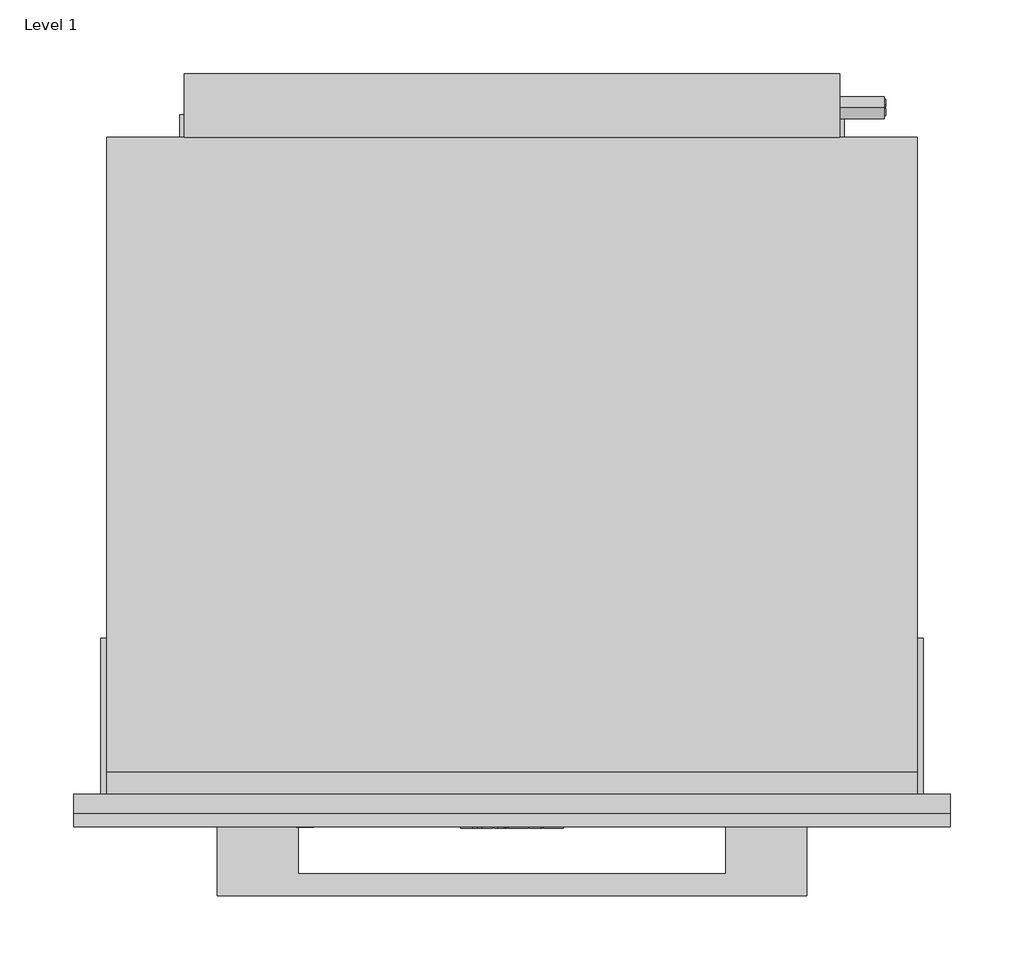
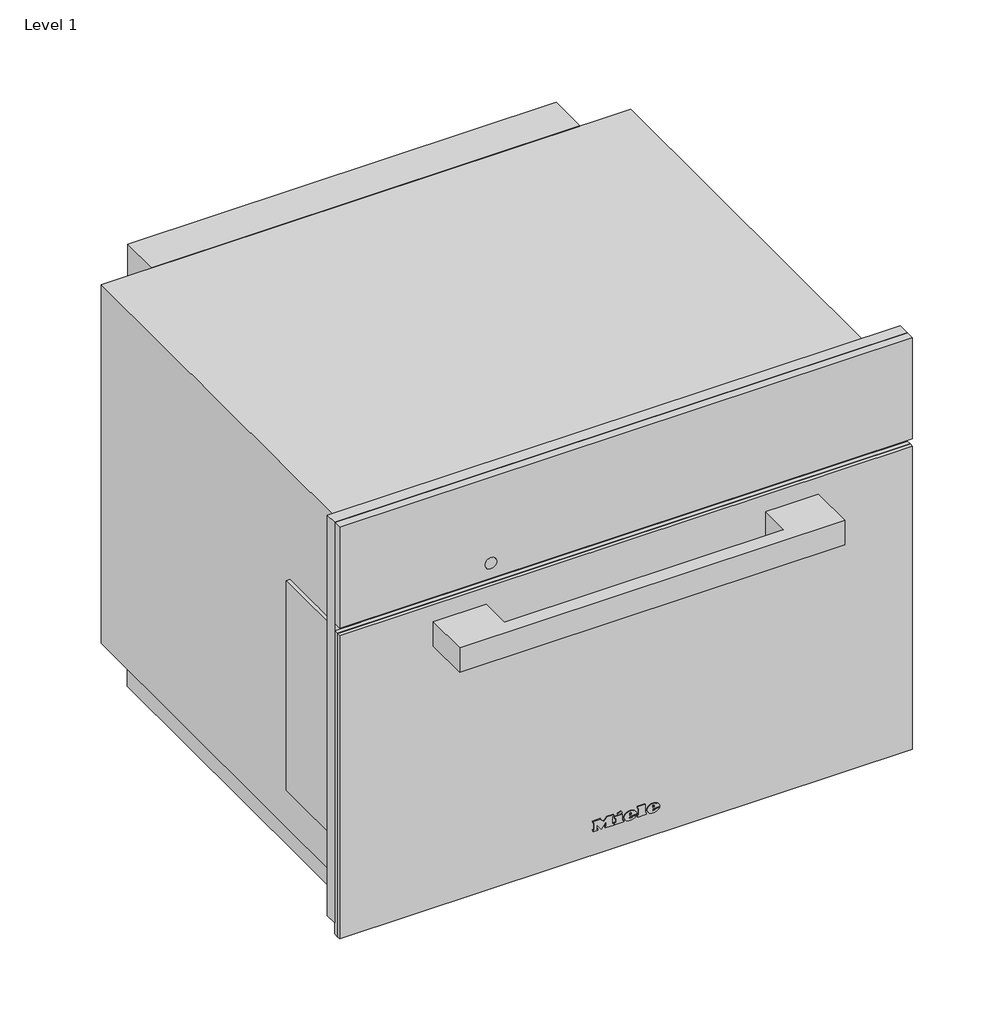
# One storey: 1 proxy.
"""IFC4 building model written with IfcOpenShell, lengths in millimetres."""

import ifcopenshell
import ifcopenshell.guid

model = None  # the IFC model being written
_history = None  # IfcOwnerHistory: only IFC2X3 demands one
_inside = {}  # id of a spatial element -> (the spatial element, [elements in it])
_under = {}  # id of a project, library or spatial element -> (it, [spatial elements below it])
_declared = {}  # id of a project -> (the project, [libraries it declares])
_typed = {}  # id of a type object -> (the type object, [elements of that type])
_made_of = {}  # id of a material, layer set ... -> (it, [elements and type objects made of it])


def new_model(schema):
    """Start an empty IFC model of exactly this schema.

    Asked for "IFC4X3", IfcOpenShell would pick the latest addendum, in which some entities
    have other attributes; the version numbers below select the first issue.
    IFC2X3 requires an IfcOwnerHistory on every rooted entity: one is made here for all.
    """
    global model, _history
    if schema == "IFC4X3":
        model = ifcopenshell.file(schema_version=(4, 3, 0, 0))
    else:
        model = ifcopenshell.file(schema=schema)
    _inside.clear()
    _under.clear()
    _declared.clear()
    _typed.clear()
    _made_of.clear()
    _history = None
    if model.schema == "IFC2X3":
        org = make("IfcOrganization", Name="unknown")
        user = make(
            "IfcPersonAndOrganization",
            ThePerson=make("IfcPerson", FamilyName="unknown"),
            TheOrganization=org,
        )
        app = make(
            "IfcApplication",
            ApplicationDeveloper=org,
            Version="unknown",
            ApplicationFullName="unknown",
            ApplicationIdentifier="unknown",
        )
        _history = make(
            "IfcOwnerHistory",
            OwningUser=user,
            OwningApplication=app,
            ChangeAction="ADDED",
            CreationDate=0,
        )
    return model


def make(cls, **values):
    """One entity of the class cls with the attributes given. An attribute that is None is left unset."""
    return model.create_entity(
        cls, **{name: value for name, value in values.items() if value is not None}
    )


def rooted(cls, **values):
    """An entity with a GlobalId (a new one), such as an element, a storey or a relation."""
    return make(cls, GlobalId=ifcopenshell.guid.new(), OwnerHistory=_history, **values)


def si_unit(unit_type, name, prefix=None):
    """IfcSIUnit, for example si_unit("LENGTHUNIT", "METRE", prefix="MILLI")."""
    return make("IfcSIUnit", UnitType=unit_type, Prefix=prefix, Name=name)


def assignment(units):
    """IfcUnitAssignment: the units of a project."""
    return None if units is None else make("IfcUnitAssignment", Units=units)


def point(xyz):
    """IfcCartesianPoint."""
    return None if xyz is None else make("IfcCartesianPoint", Coordinates=xyz)


def direction(xyz):
    """IfcDirection."""
    return None if xyz is None else make("IfcDirection", DirectionRatios=xyz)


def frame(location, z_axis=None, x_axis=None):
    """IfcAxis2Placement3D, a coordinate frame: its origin and axes. An axis left out is left unset."""
    return make(
        "IfcAxis2Placement3D",
        Location=point(location),
        Axis=direction(z_axis),
        RefDirection=direction(x_axis),
    )


def frame_2d(location, x_axis=None):
    """IfcAxis2Placement2D, a coordinate frame in the plane: its origin and x axis."""
    return make(
        "IfcAxis2Placement2D", Location=point(location), RefDirection=direction(x_axis)
    )


def origin():
    """The frame at (0, 0, 0) with its axes left unset."""
    return frame((0.0, 0.0, 0.0))


def origin_with_axes():
    """The frame at (0, 0, 0) with the z axis (0, 0, 1) and the x axis (1, 0, 0) written out."""
    return frame((0.0, 0.0, 0.0), z_axis=(0.0, 0.0, 1.0), x_axis=(1.0, 0.0, 0.0))


def place(relative_to, where):
    """IfcLocalPlacement: puts the frame where relative to a parent placement (None: the world)."""
    return make(
        "IfcLocalPlacement", PlacementRelTo=relative_to, RelativePlacement=where
    )


def context(
    kind, dimensions, precision=None, world=None, true_north=None, identifier=None
):
    """IfcGeometricRepresentationContext, for example the 3D "Model" context."""
    return make(
        "IfcGeometricRepresentationContext",
        ContextIdentifier=identifier,
        ContextType=kind,
        CoordinateSpaceDimension=dimensions,
        Precision=precision,
        WorldCoordinateSystem=world,
        TrueNorth=true_north,
    )


def project(units=None, contexts=None):
    """IfcProject with its units and contexts."""
    return rooted(
        "IfcProject",
        Name="project",
        RepresentationContexts=contexts,
        UnitsInContext=assignment(units),
    )


def spatial(cls, under=None, at=None, **own):
    """A site, building, storey or space (cls), placed at a placement, below another one or the project."""
    s = rooted(cls, ObjectPlacement=at, **own)
    if under is not None:
        _under.setdefault(under.id(), (under, []))[1].append(s)
    return s


def polyline(points):
    """IfcPolyline through the points."""
    return make("IfcPolyline", Points=[point(p) for p in points])


def circle_curve(where, radius):
    """IfcCircle in the frame where."""
    return make("IfcCircle", Position=where, Radius=radius)


def ellipse_curve(where, semi_axis1, semi_axis2):
    """IfcEllipse in the frame where."""
    return make(
        "IfcEllipse", Position=where, SemiAxis1=semi_axis1, SemiAxis2=semi_axis2
    )


def trimmed(basis, trim1, trim2, sense, master):
    """IfcTrimmedCurve: the piece of a basis curve between two trims."""
    return make(
        "IfcTrimmedCurve",
        BasisCurve=basis,
        Trim1=trim1,
        Trim2=trim2,
        SenseAgreement=sense,
        MasterRepresentation=master,
    )


def segment(curve, same_sense, transition):
    """IfcCompositeCurveSegment."""
    return make(
        "IfcCompositeCurveSegment",
        Transition=transition,
        SameSense=same_sense,
        ParentCurve=curve,
    )


def composite_curve(segments, self_intersect=None):
    """IfcCompositeCurve: segments joined end to end."""
    return make("IfcCompositeCurve", Segments=segments, SelfIntersect=self_intersect)


def outline(outer, holes=None, kind="AREA"):
    """IfcArbitraryClosedProfileDef: a profile drawn as a closed curve; with holes, ...WithVoids."""
    if holes is None:
        return make("IfcArbitraryClosedProfileDef", ProfileType=kind, OuterCurve=outer)
    return make(
        "IfcArbitraryProfileDefWithVoids",
        ProfileType=kind,
        OuterCurve=outer,
        InnerCurves=holes,
    )


def extrude(swept, where, along, depth):
    """IfcExtrudedAreaSolid: the profile swept, set in the frame where, extruded along a direction by depth."""
    return make(
        "IfcExtrudedAreaSolid",
        SweptArea=swept,
        Position=where,
        ExtrudedDirection=direction(along),
        Depth=depth,
    )


def faces_of(points, faces, orient=None, outer=None):
    """IfcFace entities. A face is a list of loops; a loop is a list of indices into points, from 0.

    orient and outer hold one flag for each loop. By default every Orientation is true, the
    first loop of a face is its IfcFaceOuterBound and the others are IfcFaceBound.
    """
    made = []
    for i, loops in enumerate(faces):
        bounds = []
        for j, loop in enumerate(loops):
            is_outer = j == 0 if outer is None else outer[i][j]
            bounds.append(
                make(
                    "IfcFaceOuterBound" if is_outer else "IfcFaceBound",
                    Bound=make("IfcPolyLoop", Polygon=[points[k] for k in loop]),
                    Orientation=True if orient is None else orient[i][j],
                )
            )
        made.append(make("IfcFace", Bounds=bounds))
    return made


def faceted_brep(points, faces, orient=None, outer=None, voids=None):
    """IfcFacetedBrep: a solid bounded by flat faces; with voids (closed shells), ...WithVoids."""
    shared = [point(p) for p in points]
    hull = make("IfcClosedShell", CfsFaces=faces_of(shared, faces, orient, outer))
    if voids is None:
        return make("IfcFacetedBrep", Outer=hull)
    return make(
        "IfcFacetedBrepWithVoids",
        Outer=hull,
        Voids=[
            make(cls, CfsFaces=faces_of(shared, fs, o, b)) for cls, fs, o, b in voids
        ],
    )


def shape(context_of_items, identifier, shape_type, items):
    """IfcShapeRepresentation: the items that make up one representation, for example the "Body"."""
    return make(
        "IfcShapeRepresentation",
        ContextOfItems=context_of_items,
        RepresentationIdentifier=identifier,
        RepresentationType=shape_type,
        Items=items,
    )


def source(mapping_origin, context_of_items, identifier, shape_type, items):
    """IfcRepresentationMap: a shape defined once, which mapped items show again and again."""
    return make(
        "IfcRepresentationMap",
        MappingOrigin=mapping_origin,
        MappedRepresentation=shape(context_of_items, identifier, shape_type, items),
    )


def transform(
    local_origin,
    x_axis=None,
    y_axis=None,
    z_axis=None,
    scale=None,
    scale2=None,
    scale3=None,
    uniform=True,
):
    """IfcCartesianTransformationOperator3D, or its non-uniform kind. x_axis, y_axis, z_axis: its Axis1, 2, 3."""
    if uniform:
        return make(
            "IfcCartesianTransformationOperator3D",
            Axis1=direction(x_axis),
            Axis2=direction(y_axis),
            LocalOrigin=point(local_origin),
            Scale=scale,
            Axis3=direction(z_axis),
        )
    return make(
        "IfcCartesianTransformationOperator3DnonUniform",
        Axis1=direction(x_axis),
        Axis2=direction(y_axis),
        LocalOrigin=point(local_origin),
        Scale=scale,
        Axis3=direction(z_axis),
        Scale2=scale2,
        Scale3=scale3,
    )


def mapped(mapping_source, mapping_target):
    """IfcMappedItem: shows the shape of a source again, moved by a transform."""
    return make(
        "IfcMappedItem", MappingSource=mapping_source, MappingTarget=mapping_target
    )


def made_of(thing, what):
    """Note that an element or type object is made of a material, layer set ...; save() writes the relation."""
    if what is not None:
        _made_of.setdefault(what.id(), (what, []))[1].append(thing)
    return thing


def element(
    cls,
    number,
    at=None,
    inside=None,
    cuts=None,
    type_object=None,
    material=None,
    context=None,
    identifier="Body",
    shape_type=None,
    held_by="IfcProductDefinitionShape",
    body=None,
    shapes=None,
    **own,
):
    """One element of the class cls, such as IfcWall. Its Tag is "e" and its number.

    at: its placement. inside: the storey or other place that contains it. cuts: it is an
    opening in that element (IfcRelVoidsElement). A single representation is given by context,
    identifier, shape_type and body (its items); several are given by shapes. held_by: the class
    of the entity that holds the representations. save() writes the other relations.
    """
    e = rooted(cls, Tag="e%d" % number, ObjectPlacement=at, **own)
    if body is not None:
        shapes = [shape(context, identifier, shape_type, body)]
    if shapes is not None:
        e.Representation = make(held_by, Representations=shapes)
    if inside is not None:
        _inside.setdefault(inside.id(), (inside, []))[1].append(e)
    if cuts is not None:
        rooted(
            "IfcRelVoidsElement", RelatingBuildingElement=cuts, RelatedOpeningElement=e
        )
    if type_object is not None:
        _typed.setdefault(type_object.id(), (type_object, []))[1].append(e)
    return made_of(e, material)


def aggregate(whole, parts):
    """IfcRelAggregates: a whole, such as a stair, and the parts it consists of."""
    return rooted("IfcRelAggregates", RelatingObject=whole, RelatedObjects=parts)


def save(model, path):
    """Write the relations noted so far, then the file.

    IfcRelAggregates (storeys below a building ...), IfcRelContainedInSpatialStructure (elements
    in a storey), IfcRelDefinesByType, IfcRelAssociatesMaterial and IfcRelDeclares: one each for
    every whole, place, type object, material and project.
    """
    for whole, parts in _under.values():
        aggregate(whole, parts)
    for where, things in _inside.values():
        rooted(
            "IfcRelContainedInSpatialStructure",
            RelatedElements=things,
            RelatingStructure=where,
        )
    for kind, things in _typed.values():
        rooted("IfcRelDefinesByType", RelatedObjects=things, RelatingType=kind)
    for what, things in _made_of.values():
        rooted("IfcRelAssociatesMaterial", RelatedObjects=things, RelatingMaterial=what)
    for by, libraries in _declared.values():
        rooted("IfcRelDeclares", RelatingContext=by, RelatedDefinitions=libraries)
    model.write(path)


def plane_surface(at):
    """IfcPlane: the flat surface through the origin of the frame at, square to its z axis."""
    return make("IfcPlane", Position=at)


def cylinder_surface(at, radius):
    """IfcCylindricalSurface: all points at the distance radius from the z axis of the frame at."""
    return make("IfcCylindricalSurface", Position=at, Radius=radius)


def revolved_surface(curve, axis_point, axis_direction):
    """IfcSurfaceOfRevolution: the curve turned about the line through axis_point along axis_direction."""
    return make(
        "IfcSurfaceOfRevolution",
        SweptCurve=make("IfcArbitraryOpenProfileDef", ProfileType="CURVE", Curve=curve),
        AxisPosition=make("IfcAxis1Placement", Location=point(axis_point), Axis=direction(axis_direction)),
    )


def extruded_surface(curve, direction_of_extrusion, depth):
    """IfcSurfaceOfLinearExtrusion: the curve pushed along a direction by depth."""
    return make(
        "IfcSurfaceOfLinearExtrusion",
        SweptCurve=make("IfcArbitraryOpenProfileDef", ProfileType="CURVE", Curve=curve),
        ExtrudedDirection=direction(direction_of_extrusion),
        Depth=depth,
    )


def advanced_brep(points, edges, surfaces, faces):
    """IfcAdvancedBrep: a solid bounded by faces that lie on surfaces and meet in shared edges.

    An edge is (start, end): straight between two places in points (the first is 0);
    or (start, end, curve); or (start, end, curve, False) where it runs against its curve.
    A face is (place in surfaces, loops), or (place, loops, False) where it looks against
    its surface's normal. A loop lists edges by number (the first is 1), with a minus sign
    where the edge is run from its end to its start. The first loop is the outer one.
    """
    corners = [point(p) for p in points]
    vertices = [make("IfcVertexPoint", VertexGeometry=c) for c in corners]
    made = []
    for start, end, *more in edges:
        made.append(
            make(
                "IfcEdgeCurve",
                EdgeStart=vertices[start],
                EdgeEnd=vertices[end],
                EdgeGeometry=more[0] if more else make("IfcPolyline", Points=[corners[start], corners[end]]),
                SameSense=more[1] if len(more) > 1 else True,
            )
        )
    hull = []
    for where, loops, *sense in faces:
        bounds = []
        for j, loop in enumerate(loops):
            ring = [make("IfcOrientedEdge", EdgeElement=made[abs(k) - 1], Orientation=k > 0) for k in loop]
            bounds.append(
                make(
                    "IfcFaceOuterBound" if j == 0 else "IfcFaceBound",
                    Bound=make("IfcEdgeLoop", EdgeList=ring),
                    Orientation=True,
                )
            )
        hull.append(make("IfcAdvancedFace", Bounds=bounds, FaceSurface=surfaces[where], SameSense=sense[0] if sense else True))
    return make("IfcAdvancedBrep", Outer=make("IfcClosedShell", CfsFaces=hull))


def specialty_equipment_be753a0b(model_context):
    return source(origin(), model_context, "Body", "SolidModel", [
        extrude(outline(polyline([(456.0, 297.5), (456.0, -297.5), (16.0, -297.5), (16.0, 297.5), (456.0, 297.5)]), holes=[polyline([(347.0, -270.0), (347.0, 270.0), (40.0, 270.0), (40.0, -270.0), (347.0, -270.0)])]), frame((0.0, -13.0, 0.0), z_axis=(0.0, 1.0, 0.0), x_axis=(0.0, 0.0, 1.0)), (0.0, 0.0, 1.0), 13.0),
        extrude(outline(composite_curve([segment(trimmed(circle_curve(frame_2d((251.5, 37.5)), 10.5), [point((251.5, 27.0))], [point((251.5, 48.0))], False, "CARTESIAN"), True, "CONTINUOUS"), segment(trimmed(circle_curve(frame_2d((251.5, 37.5)), 10.5), [point((251.5, 48.0))], [point((251.5, 27.0))], False, "CARTESIAN"), True, "CONTINUOUS")], self_intersect=False)), origin_with_axes(), (0.0, 0.0, 1.0), 3.0),
        extrude(outline(composite_curve([segment(trimmed(circle_curve(frame_2d((251.5, 397.5)), 10.5), [point((251.5, 387.0))], [point((251.5, 408.0))], False, "CARTESIAN"), True, "CONTINUOUS"), segment(trimmed(circle_curve(frame_2d((251.5, 397.5)), 10.5), [point((251.5, 408.0))], [point((251.5, 387.0))], False, "CARTESIAN"), True, "CONTINUOUS")], self_intersect=False)), origin_with_axes(), (0.0, 0.0, 1.0), 3.0),
        extrude(outline(composite_curve([segment(trimmed(circle_curve(frame_2d((-251.5, 397.5)), 10.5), [point((-251.5, 387.0))], [point((-251.5, 408.0))], False, "CARTESIAN"), True, "CONTINUOUS"), segment(trimmed(circle_curve(frame_2d((-251.5, 397.5)), 10.5), [point((-251.5, 408.0))], [point((-251.5, 387.0))], False, "CARTESIAN"), True, "CONTINUOUS")], self_intersect=False)), origin_with_axes(), (0.0, 0.0, 1.0), 3.0),
        extrude(outline(composite_curve([segment(trimmed(circle_curve(frame_2d((-251.5, 37.5)), 10.5), [point((-251.5, 27.0))], [point((-251.5, 48.0))], False, "CARTESIAN"), True, "CONTINUOUS"), segment(trimmed(circle_curve(frame_2d((-251.5, 37.5)), 10.5), [point((-251.5, 48.0))], [point((-251.5, 27.0))], False, "CARTESIAN"), True, "CONTINUOUS")], self_intersect=False)), origin_with_axes(), (0.0, 0.0, 1.0), 3.0),
        extrude(outline(polyline([(115.0, 330.0), (115.0, 130.0), (-115.0, 130.0), (-115.0, 330.0), (115.0, 330.0)])), frame((0.0, 0.0, 11.0), z_axis=(0.0, 0.0, 1.0), x_axis=(1.0, 0.0, 0.0)), (0.0, 0.0, 1.0), 26.0),
        extrude(outline(composite_curve([segment(trimmed(circle_curve(frame_2d((466.0, 369.0)), 7.5), [point((466.0, 361.5))], [point((466.0, 376.5))], False, "CARTESIAN"), True, "CONTINUOUS"), segment(trimmed(circle_curve(frame_2d((466.0, 369.0)), 7.5), [point((466.0, 376.5))], [point((466.0, 361.5))], False, "CARTESIAN"), True, "CONTINUOUS")], self_intersect=False)), frame((222.5, 0.0, 0.0), z_axis=(1.0, 0.0, 0.0), x_axis=(0.0, 1.0, 0.0)), (0.0, 0.0, 1.0), 30.0),
        extrude(outline(polyline([(-222.5, 489.0), (222.5, 489.0), (222.5, 446.0), (-222.5, 446.0), (-222.5, 489.0)])), frame((0.0, 0.0, 316.0), z_axis=(0.0, 0.0, 1.0), x_axis=(1.0, 0.0, 0.0)), (0.0, 0.0, 1.0), 115.0),
        extrude(outline(polyline([(275.0, 0.0), (275.0, 106.0), (279.0, 106.0), (279.0, 0.0), (275.0, 0.0)])), frame((0.0, 0.0, 83.2054686), z_axis=(0.0, 0.0, 1.0), x_axis=(1.0, 0.0, 0.0)), (0.0, 0.0, 1.0), 230.0),
        extrude(outline(polyline([(-279.0, 0.0), (-279.0, 106.0), (-275.0, 106.0), (-275.0, 0.0), (-279.0, 0.0)])), frame((0.0, 0.0, 83.2054686), z_axis=(0.0, 0.0, 1.0), x_axis=(1.0, 0.0, 0.0)), (0.0, 0.0, 1.0), 230.0),
        extrude(outline(polyline([(460.5132233, 374.0), (465.5132233, 374.0), (465.5132233, 373.0), (461.5132233, 373.0), (461.5132233, 369.5), (464.5132233, 369.5), (464.5132233, 368.5), (461.5132233, 368.5), (461.5132233, 365.0), (465.5132233, 365.0), (465.5132233, 364.0), (460.5132233, 364.0), (460.5132233, 374.0)])), frame((252.5, 0.0, 0.0), z_axis=(1.0, 0.0, 0.0), x_axis=(0.0, 1.0, 0.0)), (0.0, 0.0, 1.0), 1.0),
        extrude(outline(polyline([(466.5132233, 364.0), (466.5132233, 374.0), (467.5176929, 374.0), (467.5176929, 365.0), (471.5132233, 365.0), (471.5132233, 364.0), (466.5132233, 364.0)])), frame((252.5, 0.0, 0.0), z_axis=(1.0, 0.0, 0.0), x_axis=(0.0, 1.0, 0.0)), (0.0, 0.0, 1.0), 1.0),
        extrude(outline(polyline([(289.0, -225.5), (58.0, -225.5), (58.0, 0.0), (58.0, 225.5), (289.0, 225.5), (289.0, 0.0), (289.0, -225.5)])), frame((0.0, 446.0, 0.0), z_axis=(0.0, 1.0, 0.0), x_axis=(0.0, 0.0, 1.0)), (0.0, 0.0, 1.0), 15.0),
        faceted_brep([(-275.0, 446.0, 431.0), (275.0, 446.0, 431.0), (275.0, 446.0, 37.0), (-275.0, 446.0, 37.0), (-275.0, 0.0, 37.0), (-264.0, 0.0, 37.0), (-264.0, 0.0, 3.0), (-239.0, 0.0, 3.0), (-239.0, 0.0, 37.0), (239.0, 0.0, 37.0), (239.0, 0.0, 3.0), (264.0, 0.0, 3.0), (264.0, 0.0, 37.0), (275.0, 0.0, 37.0), (275.0, 0.0, 438.0), (-275.0, 0.0, 438.0), (-270.0, 0.0, 347.0), (270.0, 0.0, 347.0), (270.0, 0.0, 40.0), (-270.0, 0.0, 40.0), (-275.0, 15.0, 431.0), (275.0, 15.0, 431.0), (-275.0, 15.0, 438.0), (275.0, 15.0, 438.0), (270.0, 16.0, 347.0), (-270.0, 16.0, 347.0), (-270.0, 16.0, 40.0), (270.0, 16.0, 40.0), (225.0, 16.0, 303.0), (225.0, 16.0, 71.0), (-225.0, 16.0, 71.0), (-225.0, 16.0, 303.0), (225.0, 444.0, 303.0), (-225.0, 444.0, 303.0), (-225.0, 444.0, 71.0), (225.0, 444.0, 71.0), (-239.0, 418.0, 37.0), (-264.0, 418.0, 37.0), (264.0, 418.0, 37.0), (239.0, 418.0, 37.0), (-239.0, 418.0, 3.0), (239.0, 418.0, 3.0), (264.0, 418.0, 3.0), (-264.0, 418.0, 3.0)], [[[0, 1, 2, 3]], [[4, 5, 6, 7, 8, 9, 10, 11, 12, 13, 14, 15], [16, 17, 18, 19]], [[1, 0, 20, 21]], [[0, 3, 4, 15, 22, 20]], [[2, 1, 21, 23, 14, 13]], [[24, 25, 26, 27], [28, 29, 30, 31]], [[25, 24, 17, 16]], [[26, 25, 16, 19]], [[27, 26, 19, 18]], [[24, 27, 18, 17]], [[32, 33, 34, 35]], [[32, 35, 29, 28]], [[35, 34, 30, 29]], [[34, 33, 31, 30]], [[33, 32, 28, 31]], [[14, 23, 22, 15]], [[23, 21, 20, 22]], [[36, 37, 5, 4, 3, 2, 13, 12, 38, 39, 9, 8]], [[36, 8, 7, 40]], [[9, 39, 41, 10]], [[39, 38, 42, 41]], [[38, 12, 11, 42]], [[5, 37, 43, 6]], [[37, 36, 40, 43]], [[7, 6, 43, 40]], [[11, 10, 41, 42]]]),
        advanced_brep(
        [(27.088, -23.0, 32.7018), (27.088, -23.0, 33.8532), (34.7146, -23.0, 33.8532), (21.445, -23.0, 33.8532), (24.58, -23.0, 30.0), (34.5208, -23.0, 32.7018), (31.078, -23.0, 32.7018), (28.3648, -23.0, 31.425), (27.088, -23.0, 35.3124), (27.088, -23.0, 36.555), (29.0374, -23.0, 36.555), (29.0374, -23.0, 35.3124), (27.088, -22.0, 32.7018), (28.3648, -22.0, 31.425), (31.078, -22.0, 32.7018), (34.5208, -22.0, 32.7018), (24.58, -22.0, 30.0), (21.445, -22.0, 33.8532), (34.7146, -22.0, 33.8532), (27.088, -22.0, 33.8532), (27.088, -22.0, 35.3124), (29.0374, -22.0, 35.3124), (29.0374, -22.0, 36.555), (27.088, -22.0, 36.555)],
        [
            (0, 1),
            (1, 2),
            (2, 3, ellipse_curve(frame((28.0798, -23.0, 33.8532), z_axis=(0.0, -1.0, 0.0), x_axis=(-1.0, 0.0, 0.0)), 6.6348, 5.4834)),
            (3, 4, circle_curve(frame((25.8568622, -23.0, 34.2408), z_axis=(0.0, -1.0, 0.0), x_axis=(0.0, 0.0, -1.0)), 4.4288556)),
            (4, 5, circle_curve(frame((27.9469808, -23.0, 37.2504), z_axis=(0.0, -1.0, 0.0), x_axis=(0.0, 0.0, -1.0)), 7.9940516)),
            (5, 6),
            (6, 7, circle_curve(frame((28.9220588, -23.0, 33.762), z_axis=(0.0, 1.0, 0.0), x_axis=(0.0, 0.0, -1.0)), 2.4025208)),
            (7, 0, circle_curve(frame((28.3648, -23.0, 32.7018), z_axis=(0.0, 1.0, 0.0), x_axis=(0.0, 0.0, -1.0)), 1.2768)),
            (8, 9),
            (9, 10, circle_curve(frame((28.0627, -23.0, 36.555), z_axis=(0.0, 1.0, 0.0), x_axis=(0.0, 0.0, -1.0)), 0.9747)),
            (10, 11),
            (11, 8),
            (12, 13, circle_curve(frame((28.3648, -22.0, 32.7018), z_axis=(0.0, -1.0, 0.0), x_axis=(0.0, 0.0, -1.0)), 1.2768)),
            (13, 14, circle_curve(frame((28.9220588, -22.0, 33.762), z_axis=(0.0, -1.0, 0.0), x_axis=(0.0, 0.0, -1.0)), 2.4025208)),
            (14, 15),
            (15, 16, circle_curve(frame((27.9469808, -22.0, 37.2504), z_axis=(0.0, 1.0, 0.0), x_axis=(0.0, 0.0, -1.0)), 7.9940516)),
            (16, 17, circle_curve(frame((25.8568622, -22.0, 34.2408), z_axis=(0.0, 1.0, 0.0), x_axis=(0.0, 0.0, -1.0)), 4.4288556)),
            (17, 18, ellipse_curve(frame((28.0798, -22.0, 33.8532), z_axis=(0.0, 1.0, 0.0), x_axis=(-1.0, 0.0, 0.0)), 6.6348, 5.4834)),
            (18, 19),
            (19, 12),
            (20, 21),
            (21, 22),
            (22, 23, circle_curve(frame((28.0627, -22.0, 36.555), z_axis=(0.0, -1.0, 0.0), x_axis=(0.0, 0.0, -1.0)), 0.9747)),
            (23, 20),
            (0, 12),
            (19, 1),
            (18, 2),
            (5, 15),
            (14, 6),
            (17, 3),
            (13, 7),
            (16, 4),
            (8, 20),
            (23, 9),
            (22, 10),
            (21, 11),
        ],
        [
            plane_surface(frame((27.088, -23.0, 33.8532), z_axis=(0.0, -1.0, 0.0), x_axis=(0.0, 0.0, 1.0))),
            plane_surface(frame((27.088, -22.0, 33.8532), z_axis=(0.0, 1.0, 0.0), x_axis=(0.0, 0.0, -1.0))),
            plane_surface(frame((27.088, -23.0, 32.7018), z_axis=(1.0, 0.0, 0.0), x_axis=(0.0, 1.0, 0.0))),
            plane_surface(frame((27.088, -23.0, 33.8532), z_axis=(0.0, 0.0, -1.0), x_axis=(0.0, 1.0, 0.0))),
            plane_surface(frame((34.5208, -23.0, 32.7018), z_axis=(0.0, 0.0, 1.0), x_axis=(0.0, 1.0, 0.0))),
            extruded_surface(trimmed(ellipse_curve(frame((28.0798, -21.0, 33.8532), z_axis=(0.0, -1.0, 0.0), x_axis=(-1.0, 0.0, 0.0)), 6.6348, 5.4834), [point((34.7146, -21.0, 33.8532))], [point((21.445, -21.0, 33.8532))], True, "CARTESIAN"), (0.0, -1.0, 0.0), 1.0),
            revolved_surface(polyline([(28.9220588, -22.0, 31.3594792), (28.9220588, -23.0, 31.3594792)]), (28.9220588, -22.0, 33.762), (0.0, 1.0, 0.0)),
            revolved_surface(polyline([(28.3648, -22.0, 31.424999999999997), (28.3648, -23.0, 31.424999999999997)]), (28.3648, -22.0, 32.7018), (0.0, 1.0, 0.0)),
            cylinder_surface(frame((25.8568622, -22.0, 34.2408), z_axis=(0.0, -1.0, 0.0), x_axis=(0.0, 0.0, -1.0)), 4.4288556),
            cylinder_surface(frame((27.9469808, -22.0, 37.2504), z_axis=(0.0, -1.0, 0.0), x_axis=(0.0, 0.0, -1.0)), 7.9940516),
            plane_surface(frame((27.088, -23.0, 35.3124), z_axis=(1.0, 0.0, 0.0), x_axis=(0.0, 1.0, 0.0))),
            revolved_surface(polyline([(28.0627, -22.0, 35.5803), (28.0627, -23.0, 35.5803)]), (28.0627, -22.0, 36.555), (0.0, 1.0, 0.0)),
            plane_surface(frame((29.0374, -23.0, 36.555), z_axis=(-1.0, 0.0, 0.0), x_axis=(0.0, 1.0, 0.0))),
            plane_surface(frame((29.0374, -23.0, 35.3124), z_axis=(0.0, 0.0, 1.0), x_axis=(0.0, 1.0, 0.0))),
        ],
        [
            (0, [[1, 2, 3, 4, 5, 6, 7, 8], [9, 10, 11, 12]]),
            (1, [[13, 14, 15, 16, 17, 18, 19, 20], [21, 22, 23, 24]]),
            (2, [[-1, 25, -20, 26]]),
            (3, [[-2, -26, -19, 27]]),
            (4, [[-6, 28, -15, 29]]),
            (5, [[-3, -27, -18, 30]]),
            (6, [[-7, -29, -14, 31]]),
            (7, [[-8, -31, -13, -25]]),
            (8, [[-4, -30, -17, 32]]),
            (9, [[-5, -32, -16, -28]]),
            (10, [[-9, 33, -24, 34]]),
            (11, [[-10, -34, -23, 35]]),
            (12, [[-11, -35, -22, 36]]),
            (13, [[-12, -36, -21, -33]]),
        ],
    ),
        advanced_brep(
        [(3.2962, -23.0, 32.7018), (3.2962, -23.0, 33.8532), (10.9228, -23.0, 33.8532), (-2.3468, -23.0, 33.8532), (0.7882, -23.0, 30.0), (10.729, -23.0, 32.7018), (7.2862, -23.0, 32.7018), (4.573, -23.0, 31.425), (3.2962, -23.0, 35.3124), (3.2962, -23.0, 36.555), (5.2456, -23.0, 36.555), (5.2456, -23.0, 35.3124), (3.2962, -22.0, 32.7018), (4.573, -22.0, 31.425), (7.2862, -22.0, 32.7018), (10.729, -22.0, 32.7018), (0.7882, -22.0, 30.0), (-2.3468, -22.0, 33.8532), (10.9228, -22.0, 33.8532), (3.2962, -22.0, 33.8532), (3.2962, -22.0, 35.3124), (5.2456, -22.0, 35.3124), (5.2456, -22.0, 36.555), (3.2962, -22.0, 36.555)],
        [
            (0, 1),
            (1, 2),
            (2, 3, ellipse_curve(frame((4.288, -23.0, 33.8532), z_axis=(0.0, -1.0, 0.0), x_axis=(-1.0, 0.0, 0.0)), 6.6348, 5.4834)),
            (3, 4, circle_curve(frame((2.0650622, -23.0, 34.2408), z_axis=(0.0, -1.0, 0.0), x_axis=(0.0, 0.0, -1.0)), 4.4288556)),
            (4, 5, circle_curve(frame((4.1551808, -23.0, 37.2504), z_axis=(0.0, -1.0, 0.0), x_axis=(0.0, 0.0, -1.0)), 7.9940516)),
            (5, 6),
            (6, 7, circle_curve(frame((5.1302588, -23.0, 33.762), z_axis=(0.0, 1.0, 0.0), x_axis=(0.0, 0.0, -1.0)), 2.4025208)),
            (7, 0, circle_curve(frame((4.573, -23.0, 32.7018), z_axis=(0.0, 1.0, 0.0), x_axis=(0.0, 0.0, -1.0)), 1.2768)),
            (8, 9),
            (9, 10, circle_curve(frame((4.2709, -23.0, 36.555), z_axis=(0.0, 1.0, 0.0), x_axis=(0.0, 0.0, -1.0)), 0.9747)),
            (10, 11),
            (11, 8),
            (12, 13, circle_curve(frame((4.573, -22.0, 32.7018), z_axis=(0.0, -1.0, 0.0), x_axis=(0.0, 0.0, -1.0)), 1.2768)),
            (13, 14, circle_curve(frame((5.1302588, -22.0, 33.762), z_axis=(0.0, -1.0, 0.0), x_axis=(0.0, 0.0, -1.0)), 2.4025208)),
            (14, 15),
            (15, 16, circle_curve(frame((4.1551808, -22.0, 37.2504), z_axis=(0.0, 1.0, 0.0), x_axis=(0.0, 0.0, -1.0)), 7.9940516)),
            (16, 17, circle_curve(frame((2.0650622, -22.0, 34.2408), z_axis=(0.0, 1.0, 0.0), x_axis=(0.0, 0.0, -1.0)), 4.4288556)),
            (17, 18, ellipse_curve(frame((4.288, -22.0, 33.8532), z_axis=(0.0, 1.0, 0.0), x_axis=(-1.0, 0.0, 0.0)), 6.6348, 5.4834)),
            (18, 19),
            (19, 12),
            (20, 21),
            (21, 22),
            (22, 23, circle_curve(frame((4.2709, -22.0, 36.555), z_axis=(0.0, -1.0, 0.0), x_axis=(0.0, 0.0, -1.0)), 0.9747)),
            (23, 20),
            (0, 12),
            (19, 1),
            (18, 2),
            (5, 15),
            (14, 6),
            (17, 3),
            (13, 7),
            (16, 4),
            (8, 20),
            (23, 9),
            (22, 10),
            (21, 11),
        ],
        [
            plane_surface(frame((3.2962, -23.0, 33.8532), z_axis=(0.0, -1.0, 0.0), x_axis=(0.0, 0.0, 1.0))),
            plane_surface(frame((3.2962, -22.0, 33.8532), z_axis=(0.0, 1.0, 0.0), x_axis=(0.0, 0.0, -1.0))),
            plane_surface(frame((3.2962, -23.0, 32.7018), z_axis=(1.0, 0.0, 0.0), x_axis=(0.0, 1.0, 0.0))),
            plane_surface(frame((3.2962, -23.0, 33.8532), z_axis=(0.0, 0.0, -1.0), x_axis=(0.0, 1.0, 0.0))),
            plane_surface(frame((10.729, -23.0, 32.7018), z_axis=(0.0, 0.0, 1.0), x_axis=(0.0, 1.0, 0.0))),
            extruded_surface(trimmed(ellipse_curve(frame((4.288, -21.0, 33.8532), z_axis=(0.0, -1.0, 0.0), x_axis=(-1.0, 0.0, 0.0)), 6.6348, 5.4834), [point((10.9228, -21.0, 33.8532))], [point((-2.3468, -21.0, 33.8532))], True, "CARTESIAN"), (0.0, -1.0, 0.0), 1.0),
            revolved_surface(polyline([(5.1302588, -22.0, 31.3594792), (5.1302588, -23.0, 31.3594792)]), (5.1302588, -22.0, 33.762), (0.0, 1.0, 0.0)),
            revolved_surface(polyline([(4.573, -22.0, 31.424999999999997), (4.573, -23.0, 31.424999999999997)]), (4.573, -22.0, 32.7018), (0.0, 1.0, 0.0)),
            cylinder_surface(frame((2.0650622, -22.0, 34.2408), z_axis=(0.0, -1.0, 0.0), x_axis=(0.0, 0.0, -1.0)), 4.4288556),
            cylinder_surface(frame((4.1551808, -22.0, 37.2504), z_axis=(0.0, -1.0, 0.0), x_axis=(0.0, 0.0, -1.0)), 7.9940516),
            plane_surface(frame((3.2962, -23.0, 35.3124), z_axis=(1.0, 0.0, 0.0), x_axis=(0.0, 1.0, 0.0))),
            revolved_surface(polyline([(4.2709, -22.0, 35.5803), (4.2709, -23.0, 35.5803)]), (4.2709, -22.0, 36.555), (0.0, 1.0, 0.0)),
            plane_surface(frame((5.2456, -23.0, 36.555), z_axis=(-1.0, 0.0, 0.0), x_axis=(0.0, 1.0, 0.0))),
            plane_surface(frame((5.2456, -23.0, 35.3124), z_axis=(0.0, 0.0, 1.0), x_axis=(0.0, 1.0, 0.0))),
        ],
        [
            (0, [[1, 2, 3, 4, 5, 6, 7, 8], [9, 10, 11, 12]]),
            (1, [[13, 14, 15, 16, 17, 18, 19, 20], [21, 22, 23, 24]]),
            (2, [[-1, 25, -20, 26]]),
            (3, [[-2, -26, -19, 27]]),
            (4, [[-6, 28, -15, 29]]),
            (5, [[-3, -27, -18, 30]]),
            (6, [[-7, -29, -14, 31]]),
            (7, [[-8, -31, -13, -25]]),
            (8, [[-4, -30, -17, 32]]),
            (9, [[-5, -32, -16, -28]]),
            (10, [[-9, 33, -24, 34]]),
            (11, [[-10, -34, -23, 35]]),
            (12, [[-11, -35, -22, 36]]),
            (13, [[-12, -36, -21, -33]]),
        ],
    ),
        extrude(outline(polyline([(40.7274, -9.164), (38.8806, -8.2976), (40.6818, -4.433), (42.5286, -5.288), (40.7274, -9.164)])), frame((0.0, -23.0, 0.0), z_axis=(0.0, 1.0, 0.0), x_axis=(0.0, 0.0, 1.0)), (0.0, 0.0, 1.0), 1.0),
        extrude(outline(polyline([(38.6298, -11.9798), (36.5892, -11.9798), (36.5892, -10.6232), (31.9152, -10.6232), (31.9152, -11.9798), (30.0, -11.9798), (30.0, -2.9852), (31.9152, -2.9852), (31.9152, -4.3076), (38.6298, -4.3076), (38.6298, -11.9798)])), frame((0.0, -23.0, 0.0), z_axis=(0.0, 1.0, 0.0), x_axis=(0.0, 0.0, 1.0)), (0.0, 0.0, 1.0), 1.0),
        extrude(outline(polyline([(39.5418, 11.5612), (39.5418, 12.9292), (31.9152, 12.9292), (31.9152, 11.5612), (30.0, 11.5612), (30.0, 20.8066), (31.9152, 20.8066), (31.9152, 19.4044), (41.4, 19.4044), (41.4, 11.5612), (39.5418, 11.5612)])), frame((0.0, -23.0, 0.0), z_axis=(0.0, 1.0, 0.0), x_axis=(0.0, 0.0, 1.0)), (0.0, 0.0, 1.0), 1.0),
        extrude(outline(polyline([(39.5418, -34.7), (39.5418, -33.3206), (31.9152, -33.3206), (31.9152, -34.7), (30.0, -34.7), (30.0, -29.684), (31.9152, -29.684), (31.9152, -31.052), (36.7429247, -31.052), (30.0, -25.9562), (36.9402223, -20.8376), (31.9152, -20.8376), (31.9152, -22.2398), (30.0, -22.2398), (30.0, -13.1426), (31.9152, -13.1426), (31.9152, -14.5904), (39.5418, -14.5904), (39.5418, -13.1426), (41.4, -13.1426), (41.4, -20.0852), (37.125, -23.414), (41.4, -26.7542), (41.4, -34.7), (39.5418, -34.7)])), frame((0.0, -23.0, 0.0), z_axis=(0.0, 1.0, 0.0), x_axis=(0.0, 0.0, 1.0)), (0.0, 0.0, 1.0), 1.0),
        extrude(outline(polyline([(297.5, -22.0), (-297.5, -22.0), (-297.5, -13.0), (297.5, -13.0), (297.5, -22.0)])), frame((0.0, 0.0, 345.0), z_axis=(0.0, 0.0, 1.0), x_axis=(1.0, 0.0, 0.0)), (0.0, 0.0, 1.0), 111.0),
        extrude(outline(composite_curve([segment(trimmed(circle_curve(frame_2d((362.0, -140.5745637)), 6.0), [point((362.0, -146.5745637))], [point((362.0, -134.5745637))], False, "CARTESIAN"), True, "CONTINUOUS"), segment(trimmed(circle_curve(frame_2d((362.0, -140.5745637)), 6.0), [point((362.0, -134.5745637))], [point((362.0, -146.5745637))], False, "CARTESIAN"), True, "CONTINUOUS")], self_intersect=False)), frame((0.0, -22.5, 0.0), z_axis=(0.0, 1.0, 0.0), x_axis=(0.0, 0.0, 1.0)), (0.0, 0.0, 1.0), 1.0),
        extrude(outline(polyline([(-200.0, -69.0), (-200.0, -22.0), (-145.0, -22.0), (-145.0, -54.0), (145.0, -54.0), (145.0, -22.0), (200.0, -22.0), (200.0, -69.0), (-200.0, -69.0)])), frame((0.0, 0.0, 291.0), z_axis=(0.0, 0.0, 1.0), x_axis=(1.0, 0.0, 0.0)), (0.0, 0.0, 1.0), 27.0),
        extrude(outline(polyline([(297.5, -18.0), (-297.5, -18.0), (-297.5, -13.0), (297.5, -13.0), (297.5, -18.0)])), frame((0.0, 0.0, 4.0), z_axis=(0.0, 0.0, 1.0), x_axis=(1.0, 0.0, 0.0)), (0.0, 0.0, 1.0), 333.0),
        extrude(outline(polyline([(-297.5, -18.0), (297.5, -18.0), (297.5, -22.0), (-297.5, -22.0), (-297.5, -18.0)])), frame((0.0, 0.0, 4.0), z_axis=(0.0, 0.0, 1.0), x_axis=(1.0, 0.0, 0.0)), (0.0, 0.0, 1.0), 333.0),
    ])


model = new_model("IFC4")

# Units and contexts
model_context = context("Model", 3, world=origin())
ifc_project = project(units=[si_unit("LENGTHUNIT", "METRE", prefix="MILLI")], contexts=[model_context])

# Site, building, storey
site = spatial("IfcSite", under=ifc_project)
building = spatial("IfcBuilding", under=site)
storey = spatial("IfcBuildingStorey", under=building, Name="Level 1", Elevation=0.0)

# Proxy
placement = place(None, origin())
specialty_equipment_shape = specialty_equipment_be753a0b(model_context)
element("IfcBuildingElementProxy", 1, Name="11132560_RU_M7244TC_OBSW : 24724420_RU_11132560_M7244TC_OBSW", ObjectType="11132560_RU_M7244TC_OBSW : 24724420_RU_11132560_M7244TC_OBSW", at=placement, inside=storey, context=model_context, shape_type="MappedRepresentation", body=[
    mapped(specialty_equipment_shape, transform((0.0, 0.0, 0.0), x_axis=(1.0, 0.0, 0.0), y_axis=(0.0, 1.0, 0.0), z_axis=(0.0, 0.0, 1.0))),
])

save(model, "model.ifc")
